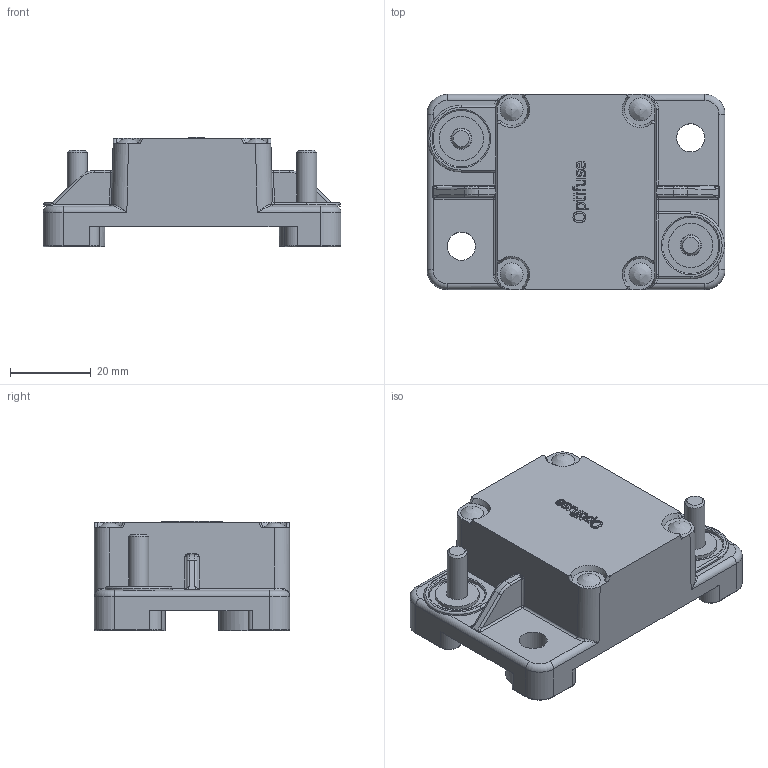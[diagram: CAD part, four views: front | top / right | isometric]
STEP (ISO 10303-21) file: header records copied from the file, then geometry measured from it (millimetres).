
FILE_DESCRIPTION(/* description */ (''),/* implementation_level */ '2;1');
FILE_NAME(/* name */ 'C:\Users\Hani\Desktop\work\151\151 Circuit Breaker.stp',/* time_stamp */ '2021-07-06T08:29:02-07:00',/* author */ ('Hani'),/* organization */ (''),/* preprocessor_version */ 'ST-DEVELOPER v17',/* originating_system */ 'Autodesk Inventor 2019',/* authorisation */ '');
FILE_SCHEMA (('AUTOMOTIVE_DESIGN { 1 0 10303 214 3 1 1 }'));
Length unit declared in the file: inch
Products named in the file (3): 151 Circuit Breaker; Circuit_Breaker series 153; bolt
Assembly tree (5 placements, depth 2):
  151 Circuit Breaker
    Circuit_Breaker series 153
    bolt  x4
Bounding box: 74 x 48.5 x 27.25 mm (x, y, z)
Volume: 52656.7 mm3; surface area: 15540.6 mm2
Topology: 5 solids, 5 shells, 403 faces, 1032 edges, 646 vertices
Faces by surface type: plane 156, bspline 113, cylinder 103, torus 25, sphere 4, cone 2
Full cylindrical faces by diameter (mm): 3.429 x4, 3.5 x4, 5 x2, 5.25 x2, 7 x4, 11 x2, 14.025 x2
Entity records: 14300 total; most frequent: CARTESIAN_POINT 5254, ORIENTED_EDGE 1996, DIRECTION 1604, EDGE_CURVE 998, VERTEX_POINT 631, AXIS2_PLACEMENT_3D 545, LINE 514, VECTOR 514
